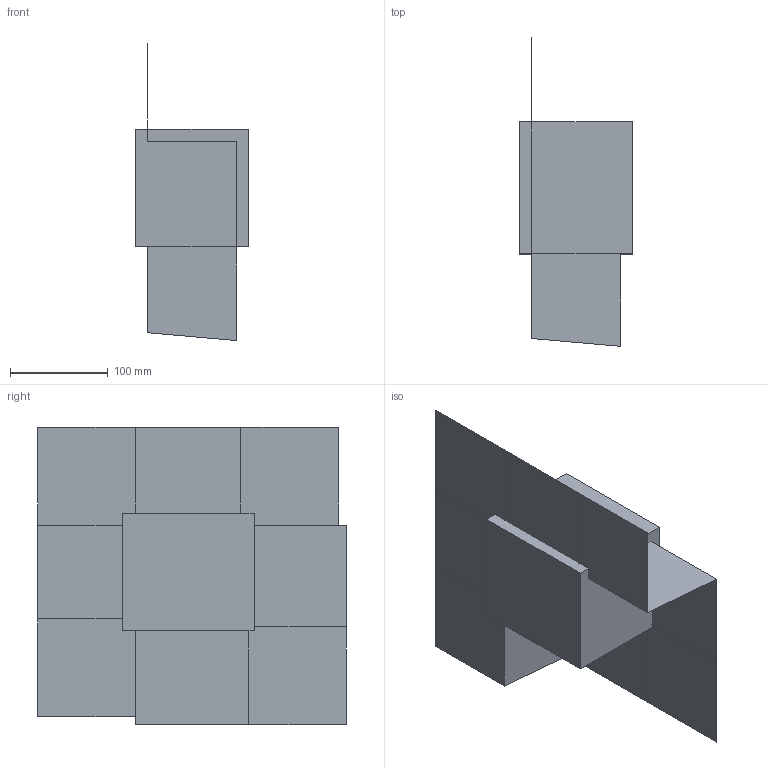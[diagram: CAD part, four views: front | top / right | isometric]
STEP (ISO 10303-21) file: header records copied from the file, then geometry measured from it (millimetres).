
FILE_DESCRIPTION(('CATIA V5 STEP Exchange'),'2;1');
FILE_NAME('C:\_Andres\UNIVERSIDAD\IQS\ASIGNATURAS\DAO\EXF\EXF-15161c\1original\Segura_Sánchez_Ej02-moldes_v25.stp','2016-03-04T15:45:44+00:00',('none'),('none'),'CATIA Version 5 Release 20 SP 1 (IN-10)','CATIA V5 STEP AP203','none');
FILE_SCHEMA(('CONFIG_CONTROL_DESIGN'));
Length unit declared in the file: millimetre
Products named in the file (1): Segura_Sánchez_Ej02-moldes_v25
Bounding box: 115 x 316.05 x 304.05 mm (x, y, z)
Volume: 3940352.4 mm3; surface area: 405664.2 mm2
Topology: 3 solids, 7 shells, 45 faces, 118 edges, 83 vertices
Faces by surface type: plane 41, cylinder 4
Entity records: 1101 total; most frequent: ORIENTED_EDGE 198, CARTESIAN_POINT 179, DIRECTION 147, EDGE_CURVE 83, VECTOR 73, LINE 73, VERTEX_POINT 56, EDGE_LOOP 49
